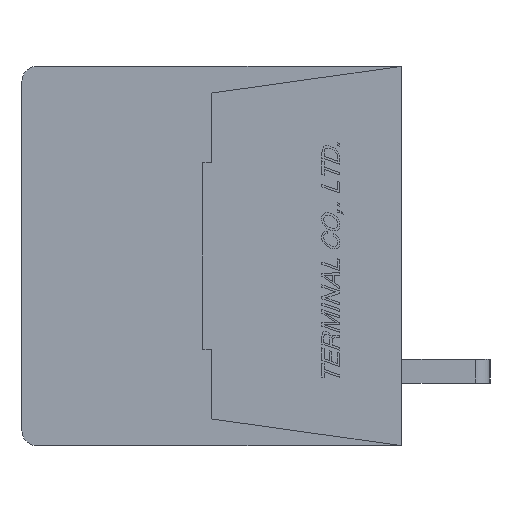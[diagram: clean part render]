
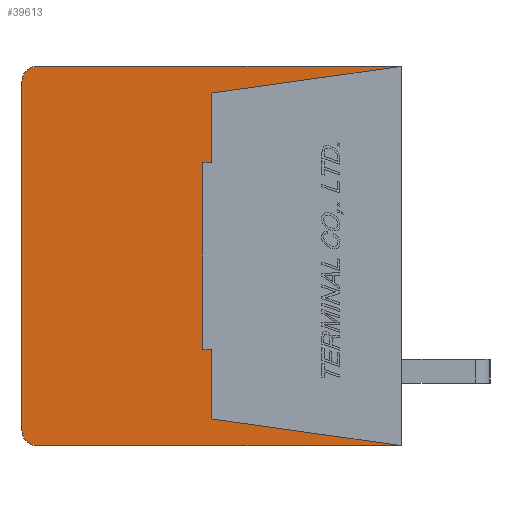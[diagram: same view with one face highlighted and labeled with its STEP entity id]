
A CAD part, left-side view. The second image highlights one B-rep face of the part: STEP entity #39613.
In plain terms, the highlighted planar face has unit normal (-1, 0, 0).
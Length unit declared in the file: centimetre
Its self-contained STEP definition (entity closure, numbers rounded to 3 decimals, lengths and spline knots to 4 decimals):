
#2025=CIRCLE('',#67868,0.05);
#2026=CIRCLE('',#67871,0.05);
#3481=VERTEX_POINT('',#54973);
#3482=VERTEX_POINT('',#54975);
#3483=VERTEX_POINT('',#54979);
#3484=VERTEX_POINT('',#54983);
#3485=VERTEX_POINT('',#54987);
#3486=VERTEX_POINT('',#54991);
#3487=VERTEX_POINT('',#54995);
#3488=VERTEX_POINT('',#54997);
#3489=VERTEX_POINT('',#54999);
#3490=VERTEX_POINT('',#55001);
#3491=VERTEX_POINT('',#55003);
#3492=VERTEX_POINT('',#55005);
#7676=VECTOR('',#45919,1.);
#7680=VECTOR('',#45928,1.);
#7683=VECTOR('',#45936,1.);
#7684=VECTOR('',#45938,1.);
#7685=VECTOR('',#45939,1.);
#7686=VECTOR('',#45940,1.);
#7687=VECTOR('',#45941,1.);
#7688=VECTOR('',#45942,1.);
#7689=VECTOR('',#45943,1.);
#7690=VECTOR('',#45944,1.);
#12337=LINE('',#54974,#7676);
#12341=LINE('',#54984,#7680);
#12344=LINE('',#54992,#7683);
#12345=LINE('',#54994,#7684);
#12346=LINE('',#54996,#7685);
#12347=LINE('',#54998,#7686);
#12348=LINE('',#55000,#7687);
#12349=LINE('',#55002,#7688);
#12350=LINE('',#55004,#7689);
#12351=LINE('',#55006,#7690);
#17516=EDGE_CURVE('',#3482,#3481,#12337,.T.);
#17519=EDGE_CURVE('',#3483,#3481,#2025,.T.);
#17521=EDGE_CURVE('',#3483,#3484,#12341,.T.);
#17523=EDGE_CURVE('',#3485,#3484,#2026,.T.);
#17525=EDGE_CURVE('',#3485,#3486,#12344,.T.);
#17526=EDGE_CURVE('',#3487,#3482,#12345,.T.);
#17527=EDGE_CURVE('',#3486,#3488,#12346,.T.);
#17528=EDGE_CURVE('',#3488,#3489,#12347,.T.);
#17529=EDGE_CURVE('',#3489,#3490,#12348,.T.);
#17530=EDGE_CURVE('',#3490,#3491,#12349,.T.);
#17531=EDGE_CURVE('',#3491,#3492,#12350,.T.);
#17532=EDGE_CURVE('',#3492,#3487,#12351,.T.);
#25508=ORIENTED_EDGE('',*,*,#17526,.T.);
#25509=ORIENTED_EDGE('',*,*,#17516,.T.);
#25510=ORIENTED_EDGE('',*,*,#17519,.F.);
#25511=ORIENTED_EDGE('',*,*,#17521,.T.);
#25512=ORIENTED_EDGE('',*,*,#17523,.F.);
#25513=ORIENTED_EDGE('',*,*,#17525,.T.);
#25514=ORIENTED_EDGE('',*,*,#17527,.T.);
#25515=ORIENTED_EDGE('',*,*,#17528,.T.);
#25516=ORIENTED_EDGE('',*,*,#17529,.T.);
#25517=ORIENTED_EDGE('',*,*,#17530,.T.);
#25518=ORIENTED_EDGE('',*,*,#17531,.T.);
#25519=ORIENTED_EDGE('',*,*,#17532,.T.);
#34485=EDGE_LOOP('',(#25508,#25509,#25510,#25511,#25512,#25513,#25514,#25515,
#25516,#25517,#25518,#25519));
#37104=FACE_BOUND('',#34485,.T.);
#39613=ADVANCED_FACE('',(#37104),#41792,.F.);
#41792=PLANE('',#67873);
#45919=DIRECTION('',(0.,1.,0.));
#45924=DIRECTION('',(1.,0.,0.));
#45925=DIRECTION('',(0.,0.,-0.05));
#45928=DIRECTION('',(0.,0.,-1.));
#45932=DIRECTION('',(1.,0.,0.));
#45933=DIRECTION('',(0.,0.,-0.05));
#45936=DIRECTION('',(0.,-1.,0.));
#45937=DIRECTION('',(1.,0.,0.));
#45938=DIRECTION('',(0.,-0.99,0.139));
#45939=DIRECTION('',(0.,0.99,0.139));
#45940=DIRECTION('',(0.,0.,1.));
#45941=DIRECTION('',(0.,1.,0.));
#45942=DIRECTION('',(0.,0.,1.));
#45943=DIRECTION('',(0.,-1.,0.));
#45944=DIRECTION('',(0.,0.,1.));
#54973=CARTESIAN_POINT('',(-1.,1.23,0.64));
#54974=CARTESIAN_POINT('',(-1.,0.,0.64));
#54975=CARTESIAN_POINT('',(-1.,0.,0.64));
#54979=CARTESIAN_POINT('',(-1.,1.28,0.59));
#54980=CARTESIAN_POINT('',(-1.,1.23,0.59));
#54983=CARTESIAN_POINT('',(-1.,1.28,-0.59));
#54984=CARTESIAN_POINT('',(-1.,1.28,0.59));
#54987=CARTESIAN_POINT('',(-1.,1.23,-0.64));
#54988=CARTESIAN_POINT('',(-1.,1.23,-0.59));
#54991=CARTESIAN_POINT('',(-1.,0.,-0.64));
#54992=CARTESIAN_POINT('',(-1.,1.23,-0.64));
#54993=CARTESIAN_POINT('',(-1.,0.6345,0.));
#54994=CARTESIAN_POINT('',(-1.,0.64,0.55));
#54995=CARTESIAN_POINT('',(-1.,0.64,0.55));
#54996=CARTESIAN_POINT('',(-1.,0.,-0.64));
#54997=CARTESIAN_POINT('',(-1.,0.64,-0.55));
#54998=CARTESIAN_POINT('',(-1.,0.64,-0.55));
#54999=CARTESIAN_POINT('',(-1.,0.64,-0.315));
#55000=CARTESIAN_POINT('',(-1.,0.64,-0.315));
#55001=CARTESIAN_POINT('',(-1.,0.67,-0.315));
#55002=CARTESIAN_POINT('',(-1.,0.67,-0.315));
#55003=CARTESIAN_POINT('',(-1.,0.67,0.315));
#55004=CARTESIAN_POINT('',(-1.,0.67,0.315));
#55005=CARTESIAN_POINT('',(-1.,0.64,0.315));
#55006=CARTESIAN_POINT('',(-1.,0.64,0.315));
#67868=AXIS2_PLACEMENT_3D('',#54980,#45924,#45925);
#67871=AXIS2_PLACEMENT_3D('',#54988,#45932,#45933);
#67873=AXIS2_PLACEMENT_3D('',#54993,#45937,$);
